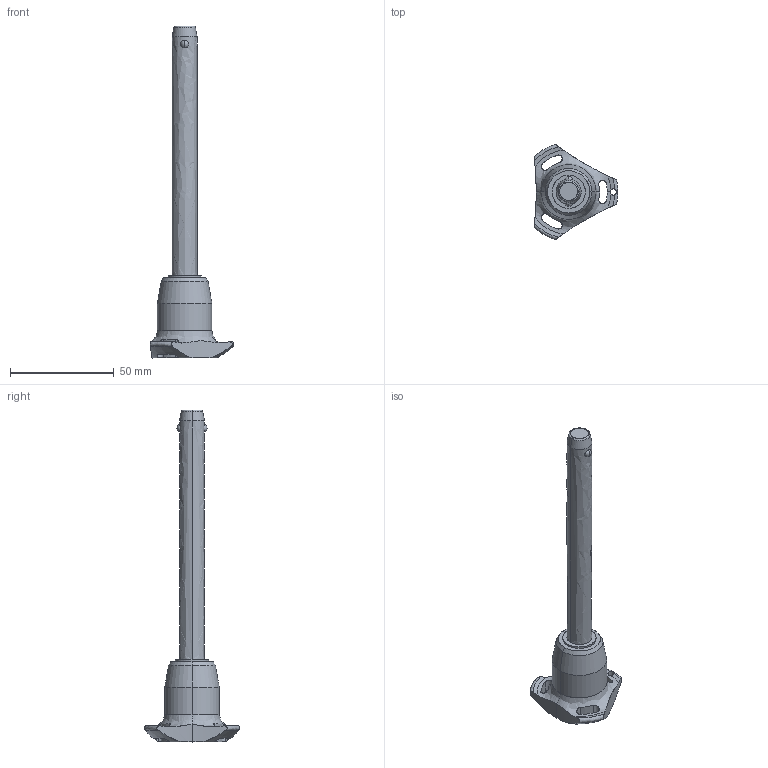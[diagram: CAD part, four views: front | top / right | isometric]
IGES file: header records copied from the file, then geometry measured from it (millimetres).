
Start section: SolidWorks IGES file using analytic representation for surfaces
Global section: file name: C:\Users\ianosborn\Desktop\QR1704_v2\QR1704_v2_20251111_IGES\QR1704.M12-110-S.igs; native system: SolidWorks 2019; preprocessor: SolidWorks 2019; author: IanOsborn; date: 251112.092739; units: millimetre
Bounding box: 40.5 x 45.88 x 160.3 mm (x, y, z)
Surface area: 10484.5 mm2 (no closed solid volume)
Topology: 0 solids, 0 shells, 65 faces, 1363 edges, 1359 vertices
Faces by surface type: revolution 50, bspline 15
